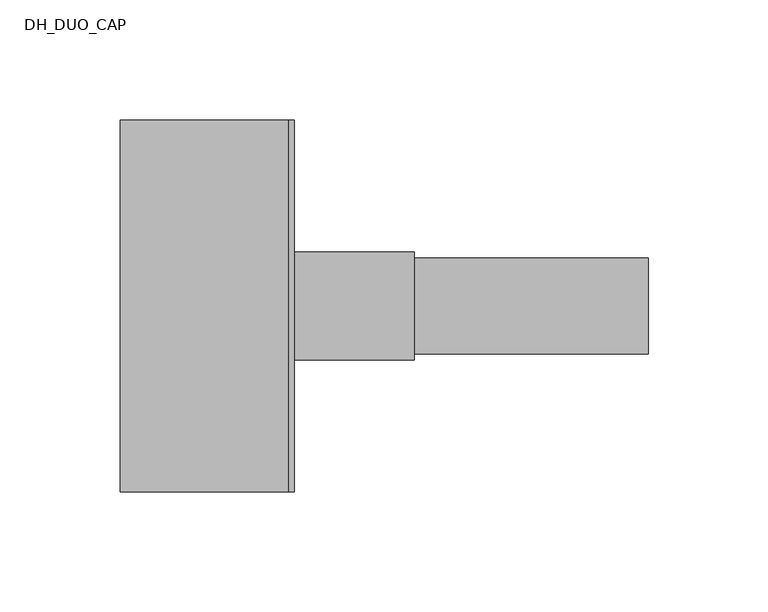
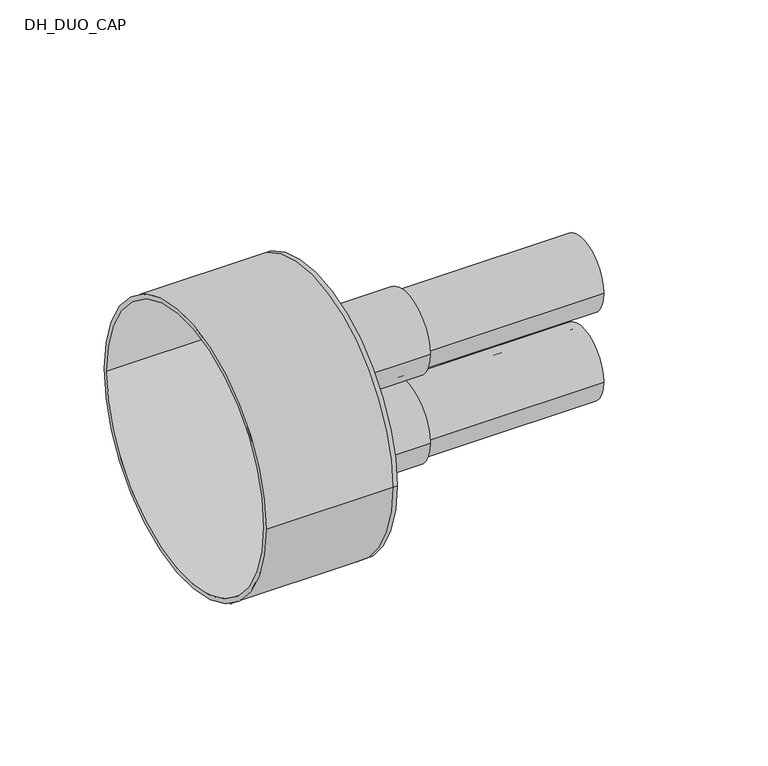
"""IFC4 building model written with IfcOpenShell, lengths in millimetres: pipe fitting geometry, DH_DUO_CAP : RAUVIPEX DUO 11 Heating - Rubber Cap."""

from ifc_helpers import new_model, si_unit, point, frame, frame_2d, origin, place, context, project, spatial, polyline, circle_curve, trimmed, segment, composite_curve, outline, extrude, source, transform, mapped, element, save
from ifc_brep_helpers import plane_surface, cylinder_surface, revolved_surface, advanced_brep


def dh_duo_cap_4544f480(model_context):
    return source(origin(), model_context, "Body", "SolidModel", [
        extrude(outline(composite_curve([segment(trimmed(circle_curve(frame_2d((0.0, -26.0)), 20.0), [point((-20.0, -26.0))], [point((20.0, -26.0))], False, "CARTESIAN"), True, "CONTINUOUS"), segment(trimmed(circle_curve(frame_2d((0.0, -26.0)), 20.0), [point((20.0, -26.0))], [point((-20.0, -26.0))], False, "CARTESIAN"), True, "CONTINUOUS")], self_intersect=False), holes=[composite_curve([segment(trimmed(circle_curve(frame_2d((0.0, -26.0)), 16.3), [point((-16.3, -26.0))], [point((16.3, -26.0))], True, "CARTESIAN"), True, "CONTINUOUS"), segment(trimmed(circle_curve(frame_2d((0.0, -26.0)), 16.3), [point((16.3, -26.0))], [point((-16.3, -26.0))], True, "CARTESIAN"), True, "CONTINUOUS")], self_intersect=False)]), frame((0.0, 0.0, 0.0), z_axis=(1.0, 0.0, 0.0), x_axis=(0.0, 1.0, 0.0)), (0.0, 0.0, 1.0), 150.0),
        extrude(outline(composite_curve([segment(trimmed(circle_curve(frame_2d((0.0, 26.0)), 20.0), [point((-20.0, 26.0))], [point((20.0, 26.0))], False, "CARTESIAN"), True, "CONTINUOUS"), segment(trimmed(circle_curve(frame_2d((0.0, 26.0)), 20.0), [point((20.0, 26.0))], [point((-20.0, 26.0))], False, "CARTESIAN"), True, "CONTINUOUS")], self_intersect=False), holes=[composite_curve([segment(trimmed(circle_curve(frame_2d((0.0, 26.0)), 16.3), [point((-16.3, 26.0))], [point((16.3, 26.0))], True, "CARTESIAN"), True, "CONTINUOUS"), segment(trimmed(circle_curve(frame_2d((0.0, 26.0)), 16.3), [point((16.3, 26.0))], [point((-16.3, 26.0))], True, "CARTESIAN"), True, "CONTINUOUS")], self_intersect=False)]), frame((0.0, 0.0, 0.0), z_axis=(1.0, 0.0, 0.0), x_axis=(0.0, 1.0, 0.0)), (0.0, 0.0, 1.0), 150.0),
        advanced_brep(
        [(-70.0, -77.5, 0.0), (-70.0, 77.5, 0.0), (-70.0, -75.0, 0.0), (-70.0, 75.0, 0.0), (0.0, -75.0, 0.0), (0.0, 75.0, 0.0), (0.0, -77.5, 0.0), (0.0, 77.5, 0.0), (0.0, 20.0, 26.0), (0.0, -20.0, 26.0), (0.0, 20.0, -26.0), (0.0, -20.0, -26.0), (2.5, -77.5, 0.0), (2.5, 77.5, 0.0), (2.5, -20.0, 26.0), (2.5, 20.0, 26.0), (2.5, -20.0, -26.0), (2.5, 20.0, -26.0)],
        [
            (0, 1, circle_curve(frame((-70.0, 0.0, 0.0), z_axis=(-1.0, 0.0, 0.0), x_axis=(0.0, 1.0, 0.0)), 77.5)),
            (1, 0, circle_curve(frame((-70.0, 0.0, 0.0), z_axis=(-1.0, 0.0, 0.0), x_axis=(0.0, 1.0, 0.0)), 77.5)),
            (2, 3, circle_curve(frame((-70.0, 0.0, 0.0), z_axis=(1.0, 0.0, 0.0), x_axis=(0.0, 1.0, 0.0)), 75.0)),
            (3, 2, circle_curve(frame((-70.0, 0.0, 0.0), z_axis=(1.0, 0.0, 0.0), x_axis=(0.0, 1.0, 0.0)), 75.0)),
            (2, 4),
            (4, 5, circle_curve(frame((0.0, 0.0, 0.0), z_axis=(1.0, 0.0, 0.0), x_axis=(0.0, 1.0, 0.0)), 75.0)),
            (5, 3),
            (5, 4, circle_curve(frame((0.0, 0.0, 0.0), z_axis=(1.0, 0.0, 0.0), x_axis=(0.0, 1.0, 0.0)), 75.0)),
            (0, 6),
            (6, 7, circle_curve(frame((0.0, 0.0, 0.0), z_axis=(-1.0, 0.0, 0.0), x_axis=(0.0, 1.0, 0.0)), 77.5)),
            (7, 1),
            (7, 6, circle_curve(frame((0.0, 0.0, 0.0), z_axis=(-1.0, 0.0, 0.0), x_axis=(0.0, 1.0, 0.0)), 77.5)),
            (8, 9, circle_curve(frame((0.0, 0.0, 26.0), z_axis=(1.0, 0.0, 0.0), x_axis=(0.0, 1.0, 0.0)), 20.0)),
            (9, 8, circle_curve(frame((0.0, 0.0, 26.0), z_axis=(1.0, 0.0, 0.0), x_axis=(0.0, 1.0, 0.0)), 20.0)),
            (10, 11, circle_curve(frame((0.0, 0.0, -26.0), z_axis=(1.0, 0.0, 0.0), x_axis=(0.0, 1.0, 0.0)), 20.0)),
            (11, 10, circle_curve(frame((0.0, 0.0, -26.0), z_axis=(1.0, 0.0, 0.0), x_axis=(0.0, 1.0, 0.0)), 20.0)),
            (12, 13, circle_curve(frame((2.5, 0.0, 0.0), z_axis=(1.0, 0.0, 0.0), x_axis=(0.0, 1.0, 0.0)), 77.5)),
            (13, 12, circle_curve(frame((2.5, 0.0, 0.0), z_axis=(1.0, 0.0, 0.0), x_axis=(0.0, 1.0, 0.0)), 77.5)),
            (14, 15, circle_curve(frame((2.5, 0.0, 26.0), z_axis=(-1.0, 0.0, 0.0), x_axis=(0.0, 1.0, 0.0)), 20.0)),
            (15, 14, circle_curve(frame((2.5, 0.0, 26.0), z_axis=(-1.0, 0.0, 0.0), x_axis=(0.0, 1.0, 0.0)), 20.0)),
            (16, 17, circle_curve(frame((2.5, 0.0, -26.0), z_axis=(-1.0, 0.0, 0.0), x_axis=(0.0, 1.0, 0.0)), 20.0)),
            (17, 16, circle_curve(frame((2.5, 0.0, -26.0), z_axis=(-1.0, 0.0, 0.0), x_axis=(0.0, 1.0, 0.0)), 20.0)),
            (13, 7),
            (6, 12),
            (8, 15),
            (14, 9),
            (10, 17),
            (16, 11),
        ],
        [
            plane_surface(frame((-70.0, 0.0, 0.0), z_axis=(-1.0, 0.0, 0.0), x_axis=(0.0, 0.0, 1.0))),
            revolved_surface(polyline([(0.0, 75.0, 0.0), (-70.0, 75.0, 0.0)]), (-70.0, 0.0, 0.0), (1.0, 0.0, 0.0)),
            cylinder_surface(frame((-70.0, 0.0, 0.0), z_axis=(-1.0, 0.0, 0.0), x_axis=(0.0, 1.0, 0.0)), 77.5),
            plane_surface(frame((0.0, 0.0, 0.0), z_axis=(-1.0, 0.0, 0.0), x_axis=(0.0, 0.0, 1.0))),
            plane_surface(frame((2.5, 0.0, 0.0), z_axis=(1.0, 0.0, 0.0), x_axis=(0.0, 0.0, 1.0))),
            cylinder_surface(frame((0.0, 0.0, 0.0), z_axis=(-1.0, 0.0, 0.0), x_axis=(0.0, 1.0, 0.0)), 77.5),
            revolved_surface(polyline([(0.0, 20.0, 26.0), (2.5, 20.0, 26.0)]), (0.0, 0.0, 26.0), (-1.0, 0.0, 0.0)),
            revolved_surface(polyline([(0.0, 20.0, -26.0), (2.5, 20.0, -26.0)]), (0.0, 0.0, -26.0), (-1.0, 0.0, 0.0)),
        ],
        [
            (0, [[1, 2], [3, 4]]),
            (1, [[-3, 5, 6, 7]]),
            (1, [[-4, -7, 8, -5]]),
            (2, [[-1, 9, 10, 11]]),
            (2, [[-2, -11, 12, -9]]),
            (3, [[-6, -8], [13, 14], [15, 16]]),
            (4, [[17, 18], [19, 20], [21, 22]]),
            (5, [[-18, 23, -10, 24]]),
            (5, [[-17, -24, -12, -23]]),
            (6, [[25, -19, 26, -13]]),
            (6, [[-25, -14, -26, -20]]),
            (7, [[27, -21, 28, -15]]),
            (7, [[-27, -16, -28, -22]]),
        ],
    ),
        extrude(outline(composite_curve([segment(trimmed(circle_curve(frame_2d((0.0, -26.0)), 22.5), [point((-22.5, -26.0))], [point((22.5, -26.0))], False, "CARTESIAN"), True, "CONTINUOUS"), segment(trimmed(circle_curve(frame_2d((0.0, -26.0)), 22.5), [point((22.5, -26.0))], [point((-22.5, -26.0))], False, "CARTESIAN"), True, "CONTINUOUS")], self_intersect=False), holes=[composite_curve([segment(trimmed(circle_curve(frame_2d((0.0, -26.0)), 20.0), [point((-20.0, -26.0))], [point((20.0, -26.0))], True, "CARTESIAN"), True, "CONTINUOUS"), segment(trimmed(circle_curve(frame_2d((0.0, -26.0)), 20.0), [point((20.0, -26.0))], [point((-20.0, -26.0))], True, "CARTESIAN"), True, "CONTINUOUS")], self_intersect=False)]), frame((2.5, 0.0, 0.0), z_axis=(1.0, 0.0, 0.0), x_axis=(0.0, 1.0, 0.0)), (0.0, 0.0, 1.0), 50.0),
        extrude(outline(composite_curve([segment(trimmed(circle_curve(frame_2d((0.0, 26.0)), 22.5), [point((-22.5, 26.0))], [point((22.5, 26.0))], False, "CARTESIAN"), True, "CONTINUOUS"), segment(trimmed(circle_curve(frame_2d((0.0, 26.0)), 22.5), [point((22.5, 26.0))], [point((-22.5, 26.0))], False, "CARTESIAN"), True, "CONTINUOUS")], self_intersect=False), holes=[composite_curve([segment(trimmed(circle_curve(frame_2d((0.0, 26.0)), 20.0), [point((-20.0, 26.0))], [point((20.0, 26.0))], True, "CARTESIAN"), True, "CONTINUOUS"), segment(trimmed(circle_curve(frame_2d((0.0, 26.0)), 20.0), [point((20.0, 26.0))], [point((-20.0, 26.0))], True, "CARTESIAN"), True, "CONTINUOUS")], self_intersect=False)]), frame((2.5, 0.0, 0.0), z_axis=(1.0, 0.0, 0.0), x_axis=(0.0, 1.0, 0.0)), (0.0, 0.0, 1.0), 50.0),
    ])


if __name__ == "__main__":
    model = new_model("IFC4")
    model_context = context("Model", 3, world=origin())
    ifc_project = project(units=[si_unit("LENGTHUNIT", "METRE", prefix="MILLI")], contexts=[model_context])
    site = spatial("IfcSite", under=ifc_project)
    building = spatial("IfcBuilding", under=site)
    placement = place(None, origin())
    dh_duo_cap_shape = dh_duo_cap_4544f480(model_context)
    element("IfcPipeFitting", 1, ObjectType="DH_DUO_CAP : RAUVIPEX DUO 11 Heating - Rubber Cap", at=placement, inside=building, context=model_context, shape_type="MappedRepresentation", body=[
        mapped(dh_duo_cap_shape, transform((0.0, 0.0, 0.0), x_axis=(1.0, 0.0, 0.0), y_axis=(0.0, 1.0, 0.0), z_axis=(0.0, 0.0, 1.0))),
    ])
    save(model, "model.ifc")
